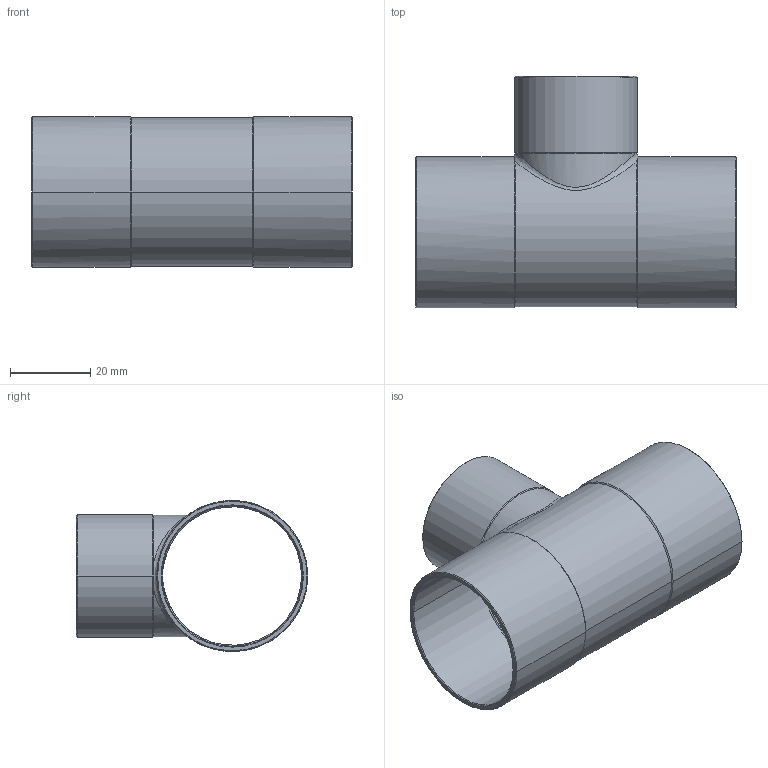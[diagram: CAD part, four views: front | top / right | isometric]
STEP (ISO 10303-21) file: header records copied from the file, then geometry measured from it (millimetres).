
FILE_DESCRIPTION((''),'2;1');
FILE_NAME('G:\Technics\CAD\Bauteile\15130\15130352835.stp','2005-11-02T10:19:50',('boden'),(''),'Autodesk Inventor 8','Autodesk Inventor 8','');
FILE_SCHEMA(('AUTOMOTIVE_DESIGN { 1 0 10303 214 1 1 1 1 }'));
Length unit declared in the file: millimetre
Products named in the file (1): 15130352835
Bounding box: 80 x 57.88 x 37.75 mm (x, y, z)
Volume: 13859.4 mm3; surface area: 21575.4 mm2
Topology: 1 solids, 1 shells, 49 faces, 118 edges, 70 vertices
Faces by surface type: cone 24, cylinder 20, plane 3, bspline 2
Entity records: 1978 total; most frequent: CARTESIAN_POINT 835, ORIENTED_EDGE 236, DIRECTION 232, EDGE_CURVE 118, AXIS2_PLACEMENT_3D 98, VERTEX_POINT 70, EDGE_LOOP 52, CIRCLE 50
